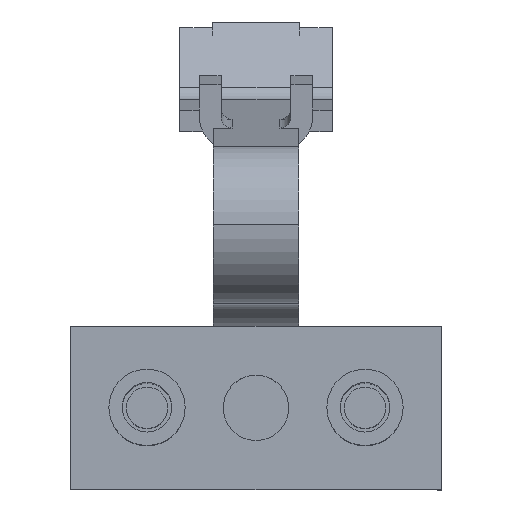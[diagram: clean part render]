
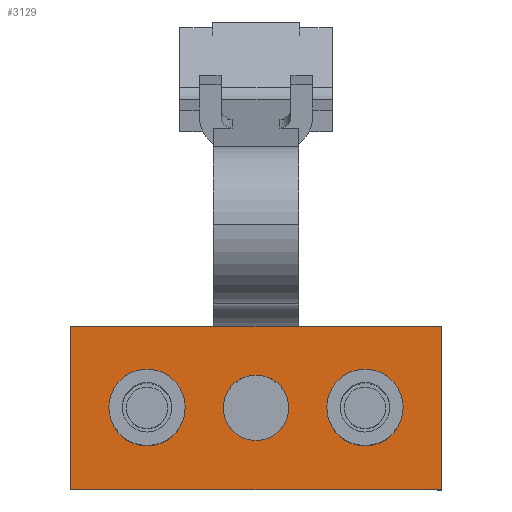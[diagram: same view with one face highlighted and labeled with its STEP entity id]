
A CAD part, top view. The second image highlights one B-rep face of the part: STEP entity #3129.
In plain terms, the highlighted planar face has unit normal (0, 0, 1).
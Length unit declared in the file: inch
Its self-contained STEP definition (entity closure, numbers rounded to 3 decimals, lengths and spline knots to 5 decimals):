
#103 = CARTESIAN_POINT ( 'NONE',  ( -0.0675, 0., 0.0625 ) ) ;
#155 = LINE ( 'NONE', #1982, #2366 ) ;
#185 = ORIENTED_EDGE ( 'NONE', *, *, #2844, .T. ) ;
#195 = VECTOR ( 'NONE', #2498, 39.37008 ) ;
#204 = AXIS2_PLACEMENT_3D ( 'NONE', #2702, #2539, #770 ) ;
#214 = CARTESIAN_POINT ( 'NONE',  ( 0.0325, 0., 0.0625 ) ) ;
#230 = EDGE_LOOP ( 'NONE', ( #1471, #892 ) ) ;
#283 = CARTESIAN_POINT ( 'NONE',  ( 0., 0., 0.0625 ) ) ;
#297 = DIRECTION ( 'NONE',  ( -1., 0., 0. ) ) ;
#337 = CARTESIAN_POINT ( 'NONE',  ( -0.015, 0., 0.0625 ) ) ;
#349 = DIRECTION ( 'NONE',  ( 0., 0., -1. ) ) ;
#363 = CARTESIAN_POINT ( 'NONE',  ( 0.05, 0., 0.0625 ) ) ;
#499 = CIRCLE ( 'NONE', #1928, 0.0175 ) ;
#527 = FACE_BOUND ( 'NONE', #1202, .T. ) ;
#534 = DIRECTION ( 'NONE',  ( 0., 0., 1. ) ) ;
#545 = DIRECTION ( 'NONE',  ( 1., 0., 0. ) ) ;
#553 = CARTESIAN_POINT ( 'NONE',  ( 0.085, 0.0375, 0.0625 ) ) ;
#557 = EDGE_CURVE ( 'NONE', #3182, #2654, #1178, .T. ) ;
#641 = ORIENTED_EDGE ( 'NONE', *, *, #860, .T. ) ;
#652 = LINE ( 'NONE', #2299, #3203 ) ;
#674 = CARTESIAN_POINT ( 'NONE',  ( -0.05, 0., 0.0625 ) ) ;
#685 = VERTEX_POINT ( 'NONE', #1710 ) ;
#770 = DIRECTION ( 'NONE',  ( -1., 0., 0. ) ) ;
#860 = EDGE_CURVE ( 'NONE', #2052, #2888, #1634, .T. ) ;
#892 = ORIENTED_EDGE ( 'NONE', *, *, #3388, .T. ) ;
#903 = CARTESIAN_POINT ( 'NONE',  ( 0.05, 0., 0.0625 ) ) ;
#911 = VERTEX_POINT ( 'NONE', #337 ) ;
#965 = EDGE_CURVE ( 'NONE', #2769, #1114, #1949, .T. ) ;
#1114 = VERTEX_POINT ( 'NONE', #103 ) ;
#1137 = FACE_OUTER_BOUND ( 'NONE', #3379, .T. ) ;
#1178 = CIRCLE ( 'NONE', #1574, 0.0175 ) ;
#1185 = EDGE_CURVE ( 'NONE', #3223, #911, #2488, .T. ) ;
#1188 = DIRECTION ( 'NONE',  ( -1., 0., 0. ) ) ;
#1196 = DIRECTION ( 'NONE',  ( -1., 0., 0. ) ) ;
#1202 = EDGE_LOOP ( 'NONE', ( #2038, #2031 ) ) ;
#1247 = DIRECTION ( 'NONE',  ( 0., 0., -1. ) ) ;
#1309 = DIRECTION ( 'NONE',  ( 0., 0., -1. ) ) ;
#1326 = DIRECTION ( 'NONE',  ( -1., 0., 0. ) ) ;
#1356 = CARTESIAN_POINT ( 'NONE',  ( -0.085, -0.0375, 0.0625 ) ) ;
#1471 = ORIENTED_EDGE ( 'NONE', *, *, #557, .T. ) ;
#1529 = ORIENTED_EDGE ( 'NONE', *, *, #1701, .F. ) ;
#1574 = AXIS2_PLACEMENT_3D ( 'NONE', #363, #349, #297 ) ;
#1623 = CARTESIAN_POINT ( 'NONE',  ( -0.085, 3.35515, 0.0625 ) ) ;
#1634 = LINE ( 'NONE', #1623, #195 ) ;
#1701 = EDGE_CURVE ( 'NONE', #2576, #685, #652, .T. ) ;
#1710 = CARTESIAN_POINT ( 'NONE',  ( 0.085, -0.0375, 0.0625 ) ) ;
#1784 = EDGE_CURVE ( 'NONE', #2576, #2052, #155, .T. ) ;
#1792 = EDGE_LOOP ( 'NONE', ( #1876, #185 ) ) ;
#1805 = ORIENTED_EDGE ( 'NONE', *, *, #3074, .F. ) ;
#1821 = AXIS2_PLACEMENT_3D ( 'NONE', #3016, #2393, #545 ) ;
#1864 = CARTESIAN_POINT ( 'NONE',  ( 2.4625, 0.0375, 0.0625 ) ) ;
#1876 = ORIENTED_EDGE ( 'NONE', *, *, #965, .T. ) ;
#1928 = AXIS2_PLACEMENT_3D ( 'NONE', #903, #2782, #1188 ) ;
#1949 = CIRCLE ( 'NONE', #3105, 0.0175 ) ;
#1982 = CARTESIAN_POINT ( 'NONE',  ( 2.4625, 0.0375, 0.0625 ) ) ;
#1993 = AXIS2_PLACEMENT_3D ( 'NONE', #1864, #1309, #3172 ) ;
#2031 = ORIENTED_EDGE ( 'NONE', *, *, #2431, .F. ) ;
#2038 = ORIENTED_EDGE ( 'NONE', *, *, #1185, .F. ) ;
#2052 = VERTEX_POINT ( 'NONE', #3331 ) ;
#2135 = PLANE ( 'NONE',  #1993 ) ;
#2167 = DIRECTION ( 'NONE',  ( 1., 0., 0. ) ) ;
#2206 = AXIS2_PLACEMENT_3D ( 'NONE', #283, #534, #2167 ) ;
#2283 = LINE ( 'NONE', #3377, #2871 ) ;
#2291 = ORIENTED_EDGE ( 'NONE', *, *, #1784, .T. ) ;
#2299 = CARTESIAN_POINT ( 'NONE',  ( 0.085, 3.22708, 0.0625 ) ) ;
#2316 = CIRCLE ( 'NONE', #204, 0.0175 ) ;
#2366 = VECTOR ( 'NONE', #1196, 39.37008 ) ;
#2393 = DIRECTION ( 'NONE',  ( 0., 0., 1. ) ) ;
#2394 = FACE_BOUND ( 'NONE', #1792, .T. ) ;
#2431 = EDGE_CURVE ( 'NONE', #911, #3223, #2903, .T. ) ;
#2475 = DIRECTION ( 'NONE',  ( -1., 0., 0. ) ) ;
#2488 = CIRCLE ( 'NONE', #1821, 0.015 ) ;
#2498 = DIRECTION ( 'NONE',  ( 0., -1., 0. ) ) ;
#2539 = DIRECTION ( 'NONE',  ( 0., 0., -1. ) ) ;
#2576 = VERTEX_POINT ( 'NONE', #553 ) ;
#2653 = DIRECTION ( 'NONE',  ( 0., -1., 0. ) ) ;
#2654 = VERTEX_POINT ( 'NONE', #214 ) ;
#2677 = CARTESIAN_POINT ( 'NONE',  ( 0.0675, 0., 0.0625 ) ) ;
#2702 = CARTESIAN_POINT ( 'NONE',  ( -0.05, 0., 0.0625 ) ) ;
#2769 = VERTEX_POINT ( 'NONE', #3063 ) ;
#2782 = DIRECTION ( 'NONE',  ( 0., 0., -1. ) ) ;
#2844 = EDGE_CURVE ( 'NONE', #1114, #2769, #2316, .T. ) ;
#2871 = VECTOR ( 'NONE', #2475, 39.37008 ) ;
#2888 = VERTEX_POINT ( 'NONE', #1356 ) ;
#2903 = CIRCLE ( 'NONE', #2206, 0.015 ) ;
#3016 = CARTESIAN_POINT ( 'NONE',  ( 0., 0., 0.0625 ) ) ;
#3057 = FACE_BOUND ( 'NONE', #230, .T. ) ;
#3063 = CARTESIAN_POINT ( 'NONE',  ( -0.0325, 0., 0.0625 ) ) ;
#3074 = EDGE_CURVE ( 'NONE', #685, #2888, #2283, .T. ) ;
#3105 = AXIS2_PLACEMENT_3D ( 'NONE', #674, #1247, #1326 ) ;
#3129 = ADVANCED_FACE ( 'NONE', ( #3057, #2394, #527, #1137 ), #2135, .F. ) ;
#3172 = DIRECTION ( 'NONE',  ( -1., 0., 0. ) ) ;
#3182 = VERTEX_POINT ( 'NONE', #2677 ) ;
#3203 = VECTOR ( 'NONE', #2653, 39.37008 ) ;
#3223 = VERTEX_POINT ( 'NONE', #3484 ) ;
#3331 = CARTESIAN_POINT ( 'NONE',  ( -0.085, 0.0375, 0.0625 ) ) ;
#3377 = CARTESIAN_POINT ( 'NONE',  ( 2.4625, -0.0375, 0.0625 ) ) ;
#3379 = EDGE_LOOP ( 'NONE', ( #1529, #2291, #641, #1805 ) ) ;
#3388 = EDGE_CURVE ( 'NONE', #2654, #3182, #499, .T. ) ;
#3484 = CARTESIAN_POINT ( 'NONE',  ( 0.015, 0., 0.0625 ) ) ;
